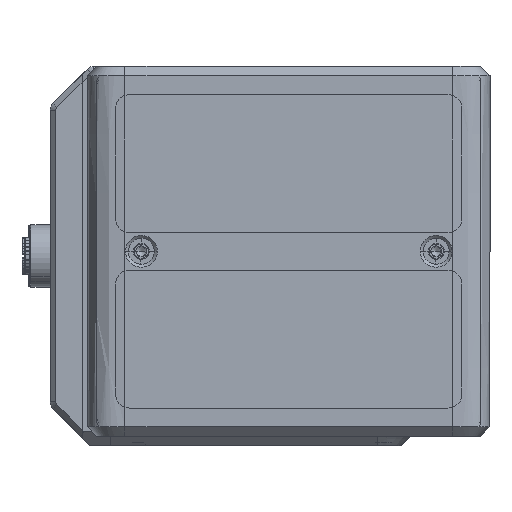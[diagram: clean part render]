
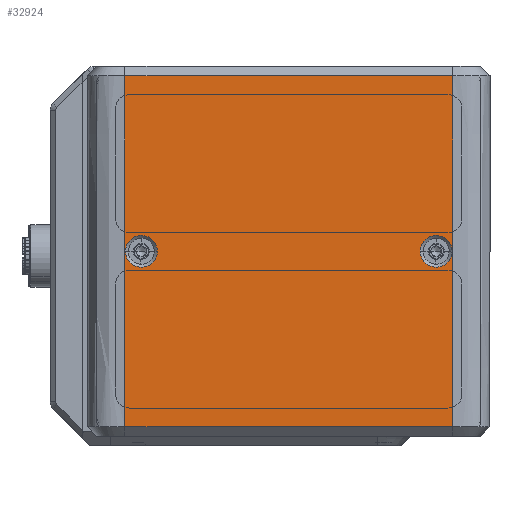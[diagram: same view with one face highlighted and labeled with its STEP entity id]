
A CAD part, front view. The second image highlights one B-rep face of the part: STEP entity #32924.
In plain terms, the highlighted planar face has unit normal (0, -1, 0) as drawn and (0, 0, -1) by its records, which use the part's own axes.
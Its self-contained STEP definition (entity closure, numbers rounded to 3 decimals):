
#212 = DIRECTION ( 'NONE',  ( 0., 0., -1. ) ) ;
#1126 = DIRECTION ( 'NONE',  ( 0., 0., 1. ) ) ;
#1223 = LINE ( 'NONE', #26246, #17157 ) ;
#1566 = CARTESIAN_POINT ( 'NONE',  ( 28.1, 0., 0. ) ) ;
#3990 = CARTESIAN_POINT ( 'NONE',  ( -35., -37.5, 0. ) ) ;
#5991 = CIRCLE ( 'NONE', #28798, 3.4 ) ;
#6196 = DIRECTION ( 'NONE',  ( 0., 0., -1. ) ) ;
#6204 = EDGE_CURVE ( 'NONE', #32840, #55949, #55832, .T. ) ;
#6904 = CARTESIAN_POINT ( 'NONE',  ( 0., -37.5, 0. ) ) ;
#6968 = CARTESIAN_POINT ( 'NONE',  ( 35., 12.5, 0. ) ) ;
#7077 = FACE_BOUND ( 'NONE', #25785, .T. ) ;
#11380 = B_SPLINE_CURVE_WITH_KNOTS ( 'NONE', 3,
 ( #61866, #6968, #25269, #55502 ),
 .UNSPECIFIED., .F., .F.,
 ( 4, 4 ),
 ( 0.025, 0.975 ),
 .UNSPECIFIED. ) ;
#12243 = EDGE_CURVE ( 'NONE', #67853, #51721, #23883, .T. ) ;
#13218 = CARTESIAN_POINT ( 'NONE',  ( -34.9, 0., 0. ) ) ;
#14685 = DIRECTION ( 'NONE',  ( 1., 0., 0. ) ) ;
#17157 = VECTOR ( 'NONE', #14685, 1000. ) ;
#18772 = VERTEX_POINT ( 'NONE', #66010 ) ;
#22769 = EDGE_CURVE ( 'NONE', #60845, #63387, #78222, .T. ) ;
#23883 = CIRCLE ( 'NONE', #41630, 3.4 ) ;
#24023 = DIRECTION ( 'NONE',  ( -1., 0., 0. ) ) ;
#24076 = CARTESIAN_POINT ( 'NONE',  ( -31.5, 0., 0. ) ) ;
#25197 = AXIS2_PLACEMENT_3D ( 'NONE', #55602, #1126, #38735 ) ;
#25263 = ORIENTED_EDGE ( 'NONE', *, *, #44585, .F. ) ;
#25269 = CARTESIAN_POINT ( 'NONE',  ( 35., -12.5, 0. ) ) ;
#25420 = ORIENTED_EDGE ( 'NONE', *, *, #25472, .F. ) ;
#25472 = EDGE_CURVE ( 'NONE', #63387, #60845, #44892, .T. ) ;
#25585 = VECTOR ( 'NONE', #24023, 1000. ) ;
#25785 = EDGE_LOOP ( 'NONE', ( #53315, #25420 ) ) ;
#26019 = DIRECTION ( 'NONE',  ( -1., 0., 0. ) ) ;
#26246 = CARTESIAN_POINT ( 'NONE',  ( 0., 37.5, 0. ) ) ;
#28633 = CARTESIAN_POINT ( 'NONE',  ( -35., 37.5, 0. ) ) ;
#28798 = AXIS2_PLACEMENT_3D ( 'NONE', #74674, #44393, #69858 ) ;
#31315 = PLANE ( 'NONE',  #25197 ) ;
#31831 = ORIENTED_EDGE ( 'NONE', *, *, #6204, .T. ) ;
#32524 = ORIENTED_EDGE ( 'NONE', *, *, #54748, .T. ) ;
#32840 = VERTEX_POINT ( 'NONE', #78296 ) ;
#32924 = ADVANCED_FACE ( 'NONE', ( #37287, #7077, #44695 ), #31315, .F. ) ;
#33722 = AXIS2_PLACEMENT_3D ( 'NONE', #67434, #212, #72236 ) ;
#37171 = DIRECTION ( 'NONE',  ( -1., 0., 0. ) ) ;
#37287 = FACE_BOUND ( 'NONE', #54447, .T. ) ;
#38735 = DIRECTION ( 'NONE',  ( 1., 0., 0. ) ) ;
#41287 = ORIENTED_EDGE ( 'NONE', *, *, #55058, .T. ) ;
#41630 = AXIS2_PLACEMENT_3D ( 'NONE', #56253, #61444, #26019 ) ;
#41744 = CARTESIAN_POINT ( 'NONE',  ( -35., 12.5, 0. ) ) ;
#43644 = AXIS2_PLACEMENT_3D ( 'NONE', #24076, #6196, #37171 ) ;
#44393 = DIRECTION ( 'NONE',  ( 0., 0., -1. ) ) ;
#44585 = EDGE_CURVE ( 'NONE', #51721, #67853, #5991, .T. ) ;
#44695 = FACE_OUTER_BOUND ( 'NONE', #63581, .T. ) ;
#44892 = CIRCLE ( 'NONE', #43644, 3.4 ) ;
#45690 = CARTESIAN_POINT ( 'NONE',  ( 34.9, 0., 0. ) ) ;
#48130 = CARTESIAN_POINT ( 'NONE',  ( -35., 37.5, 0. ) ) ;
#49784 = EDGE_CURVE ( 'NONE', #58652, #18772, #1223, .T. ) ;
#51721 = VERTEX_POINT ( 'NONE', #1566 ) ;
#53315 = ORIENTED_EDGE ( 'NONE', *, *, #22769, .F. ) ;
#54447 = EDGE_LOOP ( 'NONE', ( #25263, #56634 ) ) ;
#54748 = EDGE_CURVE ( 'NONE', #18772, #32840, #11380, .T. ) ;
#55028 = B_SPLINE_CURVE_WITH_KNOTS ( 'NONE', 3,
 ( #3990, #64855, #41744, #28633 ),
 .UNSPECIFIED., .F., .F.,
 ( 4, 4 ),
 ( 0.025, 0.975 ),
 .UNSPECIFIED. ) ;
#55058 = EDGE_CURVE ( 'NONE', #55949, #58652, #55028, .T. ) ;
#55502 = CARTESIAN_POINT ( 'NONE',  ( 35., -37.5, 0. ) ) ;
#55602 = CARTESIAN_POINT ( 'NONE',  ( 0., 0., 0. ) ) ;
#55832 = LINE ( 'NONE', #6904, #25585 ) ;
#55949 = VERTEX_POINT ( 'NONE', #73021 ) ;
#56253 = CARTESIAN_POINT ( 'NONE',  ( 31.5, 0., 0. ) ) ;
#56634 = ORIENTED_EDGE ( 'NONE', *, *, #12243, .F. ) ;
#58652 = VERTEX_POINT ( 'NONE', #48130 ) ;
#60372 = CARTESIAN_POINT ( 'NONE',  ( -28.1, 0., 0. ) ) ;
#60845 = VERTEX_POINT ( 'NONE', #13218 ) ;
#61444 = DIRECTION ( 'NONE',  ( 0., 0., -1. ) ) ;
#61866 = CARTESIAN_POINT ( 'NONE',  ( 35., 37.5, 0. ) ) ;
#61904 = ORIENTED_EDGE ( 'NONE', *, *, #49784, .T. ) ;
#63387 = VERTEX_POINT ( 'NONE', #60372 ) ;
#63581 = EDGE_LOOP ( 'NONE', ( #32524, #31831, #41287, #61904 ) ) ;
#64855 = CARTESIAN_POINT ( 'NONE',  ( -35., -12.5, 0. ) ) ;
#66010 = CARTESIAN_POINT ( 'NONE',  ( 35., 37.5, 0. ) ) ;
#67434 = CARTESIAN_POINT ( 'NONE',  ( -31.5, 0., 0. ) ) ;
#67853 = VERTEX_POINT ( 'NONE', #45690 ) ;
#69858 = DIRECTION ( 'NONE',  ( -1., 0., 0. ) ) ;
#72236 = DIRECTION ( 'NONE',  ( -1., 0., 0. ) ) ;
#73021 = CARTESIAN_POINT ( 'NONE',  ( -35., -37.5, 0. ) ) ;
#74674 = CARTESIAN_POINT ( 'NONE',  ( 31.5, 0., 0. ) ) ;
#78222 = CIRCLE ( 'NONE', #33722, 3.4 ) ;
#78296 = CARTESIAN_POINT ( 'NONE',  ( 35., -37.5, 0. ) ) ;
